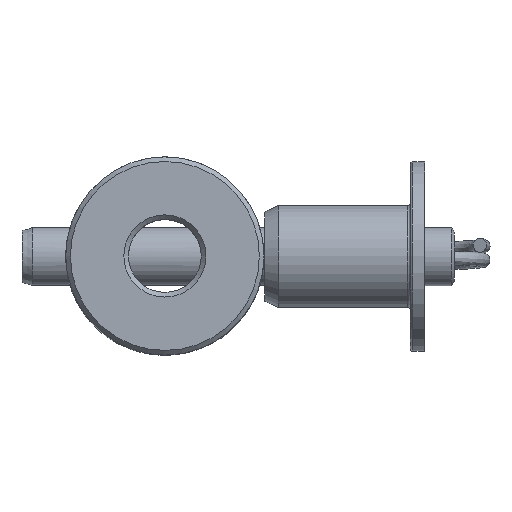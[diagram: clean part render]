
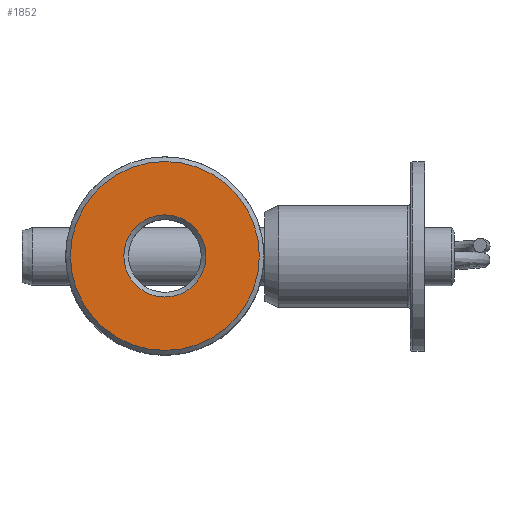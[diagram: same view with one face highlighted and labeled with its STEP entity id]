
A CAD part, top view. The second image highlights one B-rep face of the part: STEP entity #1852.
In plain terms, the highlighted planar face has unit normal (0, 0, 1).
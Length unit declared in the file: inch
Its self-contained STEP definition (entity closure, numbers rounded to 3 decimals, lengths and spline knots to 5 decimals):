
#1821=CARTESIAN_POINT('',(22.94075,36.84135,3.03443));
#1822=VERTEX_POINT('',#1821);
#1823=CARTESIAN_POINT('',(22.53575,36.84135,3.03443));
#1824=DIRECTION('',(0.0,0.0,-1.0));
#1825=DIRECTION('',(-1.0,0.0,0.0));
#1826=AXIS2_PLACEMENT_3D('',#1823,#1824,#1825);
#1827=CIRCLE('',#1826,0.405);
#1828=EDGE_CURVE('',#1822,#1822,#1827,.T.);
#1833=CARTESIAN_POINT('',(22.53575,36.84135,3.03443));
#1834=DIRECTION('',(0.0,0.0,1.0));
#1835=DIRECTION('',(-1.0,0.0,0.0));
#1836=AXIS2_PLACEMENT_3D('',#1833,#1834,#1835);
#1837=PLANE('',#1836);
#1838=ORIENTED_EDGE('',*,*,#1828,.F.);
#1839=EDGE_LOOP('',(#1838));
#1840=FACE_OUTER_BOUND('',#1839,.T.);
#1841=CARTESIAN_POINT('',(22.71175,36.84135,3.03443));
#1842=VERTEX_POINT('',#1841);
#1843=CARTESIAN_POINT('',(22.53575,36.84135,3.03443));
#1844=DIRECTION('',(0.0,0.0,1.0));
#1845=DIRECTION('',(-1.0,0.0,0.0));
#1846=AXIS2_PLACEMENT_3D('',#1843,#1844,#1845);
#1847=CIRCLE('',#1846,0.176);
#1848=EDGE_CURVE('',#1842,#1842,#1847,.T.);
#1849=ORIENTED_EDGE('',*,*,#1848,.F.);
#1850=EDGE_LOOP('',(#1849));
#1851=FACE_BOUND('',#1850,.T.);
#1852=ADVANCED_FACE('',(#1840,#1851),#1837,.T.);
